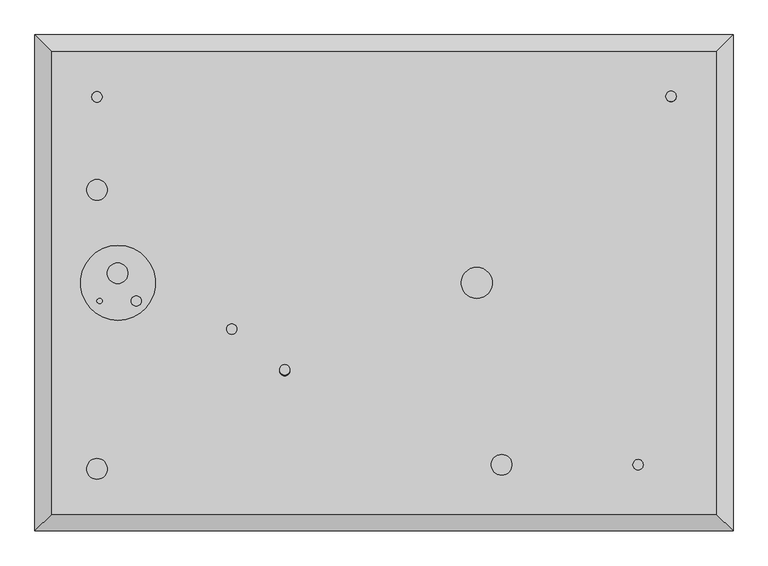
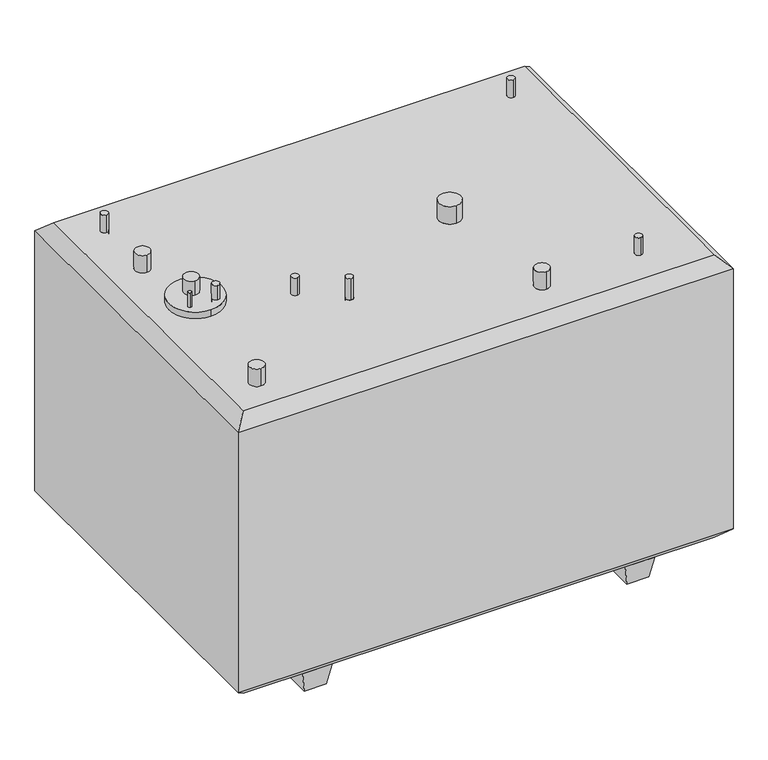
"""IFC4 building model written with IfcOpenShell, lengths in millimetres: proxy geometry, Convault Tank Family 88153116 : Convault Tank Family 88153116."""

from ifc_helpers import new_model, si_unit, point, frame, frame_2d, origin, place, context, project, spatial, polyline, circle_curve, trimmed, segment, composite_curve, outline, extrude, faceted_brep, source, transform, mapped, element, save
from ifc_brep_helpers import plane_surface, cylinder_surface, revolved_surface, advanced_brep


def generic_models_899ce9b8(model_context):
    return source(origin(), model_context, "Body", "SolidModel", [
        extrude(outline(composite_curve([segment(trimmed(circle_curve(frame_2d((-1306.5125, 0.0)), 184.15), [point((-1306.5125, 184.15))], [point((-1306.5125, -184.15))], False, "CARTESIAN"), True, "CONTINUOUS"), segment(trimmed(circle_curve(frame_2d((-1306.5125, 0.0)), 184.15), [point((-1306.5125, -184.15))], [point((-1306.5125, 184.15))], False, "CARTESIAN"), True, "CONTINUOUS")], self_intersect=False)), frame((0.0, 0.0, 2044.7), z_axis=(0.0, 0.0, 1.0), x_axis=(1.0, 0.0, 0.0)), (0.0, 0.0, 1.0), 224.7090569),
        advanced_brep(
        [(-487.3625, -452.4375, 2374.9), (-487.3625, -401.6375, 2374.9), (-512.6795956, -429.088029, 2044.7), (-487.3625, -401.6375, 2044.7), (-462.0454044, -429.088029, 2044.7), (-487.3625, -405.7385581, 2044.7), (-487.3625, -452.4375, 2222.5), (-462.0454044, -429.088029, 2222.5), (-512.6795956, -429.088029, 2222.5), (-487.3625, -405.7385581, 2222.5)],
        [
            (0, 1, circle_curve(frame((-487.3625, -427.0375, 2374.9), z_axis=(0.0, 0.0, 1.0), x_axis=(0.0, 1.0, 0.0)), 25.4)),
            (1, 0, circle_curve(frame((-487.3625, -427.0375, 2374.9), z_axis=(0.0, 0.0, 1.0), x_axis=(0.0, 1.0, 0.0)), 25.4)),
            (2, 3, circle_curve(frame((-487.3625, -427.0375, 2044.7), z_axis=(0.0, 0.0, -1.0), x_axis=(0.0, 1.0, 0.0)), 25.4)),
            (3, 4, circle_curve(frame((-487.3625, -427.0375, 2044.7), z_axis=(0.0, 0.0, -1.0), x_axis=(0.0, 1.0, 0.0)), 25.4)),
            (4, 5, circle_curve(frame((-487.3625, -431.1385581, 2044.7), z_axis=(0.0, 0.0, 1.0), x_axis=(0.0, -1.0, 0.0)), 25.4)),
            (5, 2, circle_curve(frame((-487.3625, -431.1385581, 2044.7), z_axis=(0.0, 0.0, 1.0), x_axis=(0.0, -1.0, 0.0)), 25.4)),
            (0, 6),
            (6, 7, circle_curve(frame((-487.3625, -427.0375, 2222.5), z_axis=(0.0, 0.0, 1.0), x_axis=(0.0, 1.0, 0.0)), 25.4)),
            (7, 4),
            (3, 1),
            (2, 8),
            (8, 6, circle_curve(frame((-487.3625, -427.0375, 2222.5), z_axis=(0.0, 0.0, 1.0), x_axis=(0.0, 1.0, 0.0)), 25.4)),
            (9, 7, circle_curve(frame((-487.3625, -431.1385581, 2222.5), z_axis=(0.0, 0.0, -1.0), x_axis=(0.0, -1.0, 0.0)), 25.4)),
            (8, 9, circle_curve(frame((-487.3625, -431.1385581, 2222.5), z_axis=(0.0, 0.0, -1.0), x_axis=(0.0, -1.0, 0.0)), 25.4)),
            (5, 9),
        ],
        [
            plane_surface(frame((-487.3625, -401.6375, 2374.9), z_axis=(0.0, 0.0, 1.0), x_axis=(-1.0, 0.0, 0.0))),
            plane_surface(frame((-487.3625, -401.6375, 2044.7), z_axis=(0.0, 0.0, -1.0), x_axis=(1.0, 0.0, 0.0))),
            cylinder_surface(frame((-487.3625, -427.0375, 2044.7), z_axis=(0.0, 0.0, 1.0), x_axis=(0.0, 1.0, 0.0)), 25.4),
            plane_surface(frame((-1409.7, 889.0, 2222.5), z_axis=(0.0, 0.0, -1.0), x_axis=(1.0, 0.0, 0.0))),
            revolved_surface(polyline([(-487.3625, -456.5385581, 2222.5), (-487.3625, -456.5385581, 2044.7)]), (-487.3625, -431.1385581, 2044.7), (0.0, 0.0, 1.0)),
        ],
        [
            (0, [[1, 2]]),
            (1, [[3, 4, 5, 6]]),
            (2, [[-1, 7, 8, 9, -4, 10]]),
            (2, [[-2, -10, -3, 11, 12, -7]]),
            (3, [[13, -8, -12, 14]]),
            (4, [[15, -14, -11, -6]]),
            (4, [[-15, -5, -9, -13]]),
        ],
    ),
        advanced_brep(
        [(-1409.7, 939.8, 2349.5), (-1409.7, 889.0, 2349.5), (-1409.7, 939.8, 2222.5), (-1409.7, 889.0, 2222.5)],
        [
            (0, 1, circle_curve(frame((-1409.7, 914.4, 2349.5), z_axis=(0.0, 0.0, 1.0), x_axis=(0.0, -1.0, 0.0)), 25.4)),
            (1, 0, circle_curve(frame((-1409.7, 914.4, 2349.5), z_axis=(0.0, 0.0, 1.0), x_axis=(0.0, -1.0, 0.0)), 25.4)),
            (0, 2),
            (2, 3, circle_curve(frame((-1409.7, 914.4, 2222.5), z_axis=(0.0, 0.0, 1.0), x_axis=(0.0, -1.0, 0.0)), 25.4)),
            (3, 1),
            (3, 2, circle_curve(frame((-1409.7, 914.4, 2222.5), z_axis=(0.0, 0.0, 1.0), x_axis=(0.0, -1.0, 0.0)), 25.4)),
        ],
        [
            plane_surface(frame((-1409.7, 889.0, 2349.5), z_axis=(0.0, 0.0, 1.0), x_axis=(1.0, 0.0, 0.0))),
            cylinder_surface(frame((-1409.7, 914.4, 2044.7), z_axis=(0.0, 0.0, 1.0), x_axis=(0.0, -1.0, 0.0)), 25.4),
            plane_surface(frame((-1409.7, 889.0, 2222.5), z_axis=(0.0, 0.0, -1.0), x_axis=(1.0, 0.0, 0.0))),
        ],
        [
            (0, [[1, 2]]),
            (1, [[-1, 3, 4, 5]]),
            (1, [[-2, -5, 6, -3]]),
            (2, [[-4, -6]]),
        ],
    ),
        advanced_brep(
        [(-1409.7, 508.0, 2349.5), (-1409.7, 406.4, 2349.5), (-1409.7, 508.0, 2222.5), (-1409.7, 406.4, 2222.5)],
        [
            (0, 1, circle_curve(frame((-1409.7, 457.2, 2349.5), z_axis=(0.0, 0.0, 1.0), x_axis=(0.0, -1.0, 0.0)), 50.8)),
            (1, 0, circle_curve(frame((-1409.7, 457.2, 2349.5), z_axis=(0.0, 0.0, 1.0), x_axis=(0.0, -1.0, 0.0)), 50.8)),
            (0, 2),
            (2, 3, circle_curve(frame((-1409.7, 457.2, 2222.5), z_axis=(0.0, 0.0, 1.0), x_axis=(0.0, -1.0, 0.0)), 50.8)),
            (3, 1),
            (3, 2, circle_curve(frame((-1409.7, 457.2, 2222.5), z_axis=(0.0, 0.0, 1.0), x_axis=(0.0, -1.0, 0.0)), 50.8)),
        ],
        [
            plane_surface(frame((-1409.7, 889.0, 2349.5), z_axis=(0.0, 0.0, 1.0), x_axis=(1.0, 0.0, 0.0))),
            cylinder_surface(frame((-1409.7, 457.2, 2044.7), z_axis=(0.0, 0.0, 1.0), x_axis=(0.0, -1.0, 0.0)), 50.8),
            plane_surface(frame((-1409.7, 889.0, 2222.5), z_axis=(0.0, 0.0, -1.0), x_axis=(1.0, 0.0, 0.0))),
        ],
        [
            (0, [[1, 2]]),
            (1, [[-1, 3, 4, 5]]),
            (1, [[-2, -5, 6, -3]]),
            (2, [[-4, -6]]),
        ],
    ),
        advanced_brep(
        [(-1409.7, -863.6, 2349.5), (-1409.7, -965.2, 2349.5), (-1409.7, -863.6, 2222.5), (-1409.7, -965.2, 2222.5)],
        [
            (0, 1, circle_curve(frame((-1409.7, -914.4, 2349.5), z_axis=(0.0, 0.0, 1.0), x_axis=(0.0, -1.0, 0.0)), 50.8)),
            (1, 0, circle_curve(frame((-1409.7, -914.4, 2349.5), z_axis=(0.0, 0.0, 1.0), x_axis=(0.0, -1.0, 0.0)), 50.8)),
            (0, 2),
            (2, 3, circle_curve(frame((-1409.7, -914.4, 2222.5), z_axis=(0.0, 0.0, 1.0), x_axis=(0.0, -1.0, 0.0)), 50.8)),
            (3, 1),
            (3, 2, circle_curve(frame((-1409.7, -914.4, 2222.5), z_axis=(0.0, 0.0, 1.0), x_axis=(0.0, -1.0, 0.0)), 50.8)),
        ],
        [
            plane_surface(frame((-1409.7, 889.0, 2349.5), z_axis=(0.0, 0.0, 1.0), x_axis=(1.0, 0.0, 0.0))),
            cylinder_surface(frame((-1409.7, -914.4, 2044.7), z_axis=(0.0, 0.0, 1.0), x_axis=(0.0, -1.0, 0.0)), 50.8),
            plane_surface(frame((-1409.7, 889.0, 2222.5), z_axis=(0.0, 0.0, -1.0), x_axis=(1.0, 0.0, 0.0))),
        ],
        [
            (0, [[1, 2]]),
            (1, [[-1, 3, 4, 5]]),
            (1, [[-2, -5, 6, -3]]),
            (2, [[-4, -6]]),
        ],
    ),
        advanced_brep(
        [(-747.7125, -201.6125, 2349.5), (-747.7125, -252.4125, 2349.5), (-747.7125, -201.6125, 2222.5), (-747.7125, -252.4125, 2222.5)],
        [
            (0, 1, circle_curve(frame((-747.7125, -227.0125, 2349.5), z_axis=(0.0, 0.0, 1.0), x_axis=(0.0, -1.0, 0.0)), 25.4)),
            (1, 0, circle_curve(frame((-747.7125, -227.0125, 2349.5), z_axis=(0.0, 0.0, 1.0), x_axis=(0.0, -1.0, 0.0)), 25.4)),
            (0, 2),
            (2, 3, circle_curve(frame((-747.7125, -227.0125, 2222.5), z_axis=(0.0, 0.0, 1.0), x_axis=(0.0, -1.0, 0.0)), 25.4)),
            (3, 1),
            (3, 2, circle_curve(frame((-747.7125, -227.0125, 2222.5), z_axis=(0.0, 0.0, 1.0), x_axis=(0.0, -1.0, 0.0)), 25.4)),
        ],
        [
            plane_surface(frame((-1409.7, 889.0, 2349.5), z_axis=(0.0, 0.0, 1.0), x_axis=(1.0, 0.0, 0.0))),
            cylinder_surface(frame((-747.7125, -227.0125, 2044.7), z_axis=(0.0, 0.0, 1.0), x_axis=(0.0, -1.0, 0.0)), 25.4),
            plane_surface(frame((-1409.7, 889.0, 2222.5), z_axis=(0.0, 0.0, -1.0), x_axis=(1.0, 0.0, 0.0))),
        ],
        [
            (0, [[1, 2]]),
            (1, [[-1, 3, 4, 5]]),
            (1, [[-2, -5, 6, -3]]),
            (2, [[-4, -6]]),
        ],
    ),
        advanced_brep(
        [(455.6125, 76.2, 2349.5), (455.6125, -76.2, 2349.5), (455.6125, 76.2, 2222.5), (455.6125, -76.2, 2222.5)],
        [
            (0, 1, circle_curve(frame((455.6125, 0.0, 2349.5), z_axis=(0.0, 0.0, 1.0), x_axis=(0.0, -1.0, 0.0)), 76.2)),
            (1, 0, circle_curve(frame((455.6125, 0.0, 2349.5), z_axis=(0.0, 0.0, 1.0), x_axis=(0.0, -1.0, 0.0)), 76.2)),
            (0, 2),
            (2, 3, circle_curve(frame((455.6125, 0.0, 2222.5), z_axis=(0.0, 0.0, 1.0), x_axis=(0.0, -1.0, 0.0)), 76.2)),
            (3, 1),
            (3, 2, circle_curve(frame((455.6125, 0.0, 2222.5), z_axis=(0.0, 0.0, 1.0), x_axis=(0.0, -1.0, 0.0)), 76.2)),
        ],
        [
            plane_surface(frame((-1409.7, 889.0, 2349.5), z_axis=(0.0, 0.0, 1.0), x_axis=(1.0, 0.0, 0.0))),
            cylinder_surface(frame((455.6125, 0.0, 2044.7), z_axis=(0.0, 0.0, 1.0), x_axis=(0.0, -1.0, 0.0)), 76.2),
            plane_surface(frame((-1409.7, 889.0, 2222.5), z_axis=(0.0, 0.0, -1.0), x_axis=(1.0, 0.0, 0.0))),
        ],
        [
            (0, [[1, 2]]),
            (1, [[-1, 3, 4, 5]]),
            (1, [[-2, -5, 6, -3]]),
            (2, [[-4, -6]]),
        ],
    ),
        advanced_brep(
        [(1247.775, -868.3625, 2349.5), (1247.775, -919.1625, 2349.5), (1247.775, -868.3625, 2222.5), (1247.775, -919.1625, 2222.5)],
        [
            (0, 1, circle_curve(frame((1247.775, -893.7625, 2349.5), z_axis=(0.0, 0.0, 1.0), x_axis=(0.0, -1.0, 0.0)), 25.4)),
            (1, 0, circle_curve(frame((1247.775, -893.7625, 2349.5), z_axis=(0.0, 0.0, 1.0), x_axis=(0.0, -1.0, 0.0)), 25.4)),
            (0, 2),
            (2, 3, circle_curve(frame((1247.775, -893.7625, 2222.5), z_axis=(0.0, 0.0, 1.0), x_axis=(0.0, -1.0, 0.0)), 25.4)),
            (3, 1),
            (3, 2, circle_curve(frame((1247.775, -893.7625, 2222.5), z_axis=(0.0, 0.0, 1.0), x_axis=(0.0, -1.0, 0.0)), 25.4)),
        ],
        [
            plane_surface(frame((-1409.7, 889.0, 2349.5), z_axis=(0.0, 0.0, 1.0), x_axis=(1.0, 0.0, 0.0))),
            cylinder_surface(frame((1247.775, -893.7625, 2044.7), z_axis=(0.0, 0.0, 1.0), x_axis=(0.0, -1.0, 0.0)), 25.4),
            plane_surface(frame((-1409.7, 889.0, 2222.5), z_axis=(0.0, 0.0, -1.0), x_axis=(1.0, 0.0, 0.0))),
        ],
        [
            (0, [[1, 2]]),
            (1, [[-1, 3, 4, 5]]),
            (1, [[-2, -5, 6, -3]]),
            (2, [[-4, -6]]),
        ],
    ),
        advanced_brep(
        [(577.85, -842.9625, 2349.5), (577.85, -944.5625, 2349.5), (577.85, -842.9625, 2222.5), (577.85, -944.5625, 2222.5)],
        [
            (0, 1, circle_curve(frame((577.85, -893.7625, 2349.5), z_axis=(0.0, 0.0, 1.0), x_axis=(0.0, -1.0, 0.0)), 50.8)),
            (1, 0, circle_curve(frame((577.85, -893.7625, 2349.5), z_axis=(0.0, 0.0, 1.0), x_axis=(0.0, -1.0, 0.0)), 50.8)),
            (0, 2),
            (2, 3, circle_curve(frame((577.85, -893.7625, 2222.5), z_axis=(0.0, 0.0, 1.0), x_axis=(0.0, -1.0, 0.0)), 50.8)),
            (3, 1),
            (3, 2, circle_curve(frame((577.85, -893.7625, 2222.5), z_axis=(0.0, 0.0, 1.0), x_axis=(0.0, -1.0, 0.0)), 50.8)),
        ],
        [
            plane_surface(frame((-1409.7, 889.0, 2349.5), z_axis=(0.0, 0.0, 1.0), x_axis=(1.0, 0.0, 0.0))),
            cylinder_surface(frame((577.85, -893.7625, 2044.7), z_axis=(0.0, 0.0, 1.0), x_axis=(0.0, -1.0, 0.0)), 50.8),
            plane_surface(frame((-1409.7, 889.0, 2222.5), z_axis=(0.0, 0.0, -1.0), x_axis=(1.0, 0.0, 0.0))),
        ],
        [
            (0, [[1, 2]]),
            (1, [[-1, 3, 4, 5]]),
            (1, [[-2, -5, 6, -3]]),
            (2, [[-4, -6]]),
        ],
    ),
        advanced_brep(
        [(1409.7, 942.4209307, 2349.5), (1409.7, 891.6209307, 2349.5), (1409.7, 942.4209307, 2044.7), (1435.0976351, 916.674328, 2044.7), (1409.7, 941.7277254, 2044.7), (1384.3023649, 916.674328, 2044.7), (1409.7, 941.7277254, 2222.5), (1435.0976351, 916.674328, 2222.5), (1409.7, 891.6209307, 2222.5), (1384.3023649, 916.674328, 2222.5)],
        [
            (0, 1, circle_curve(frame((1409.7, 917.0209307, 2349.5), z_axis=(0.0, 0.0, 1.0), x_axis=(0.0, -1.0, 0.0)), 25.4)),
            (1, 0, circle_curve(frame((1409.7, 917.0209307, 2349.5), z_axis=(0.0, 0.0, 1.0), x_axis=(0.0, -1.0, 0.0)), 25.4)),
            (2, 3, circle_curve(frame((1409.7, 917.0209307, 2044.7), z_axis=(0.0, 0.0, -1.0), x_axis=(0.0, -1.0, 0.0)), 25.4)),
            (3, 4, circle_curve(frame((1409.7, 916.3277254, 2044.7), z_axis=(0.0, 0.0, 1.0), x_axis=(0.0, -1.0, 0.0)), 25.4)),
            (4, 5, circle_curve(frame((1409.7, 916.3277254, 2044.7), z_axis=(0.0, 0.0, 1.0), x_axis=(0.0, -1.0, 0.0)), 25.4)),
            (5, 2, circle_curve(frame((1409.7, 917.0209307, 2044.7), z_axis=(0.0, 0.0, -1.0), x_axis=(0.0, -1.0, 0.0)), 25.4)),
            (6, 7, circle_curve(frame((1409.7, 916.3277254, 2222.5), z_axis=(0.0, 0.0, -1.0), x_axis=(0.0, -1.0, 0.0)), 25.4)),
            (7, 8, circle_curve(frame((1409.7, 917.0209307, 2222.5), z_axis=(0.0, 0.0, -1.0), x_axis=(0.0, -1.0, 0.0)), 25.4)),
            (8, 9, circle_curve(frame((1409.7, 917.0209307, 2222.5), z_axis=(0.0, 0.0, -1.0), x_axis=(0.0, -1.0, 0.0)), 25.4)),
            (9, 6, circle_curve(frame((1409.7, 916.3277254, 2222.5), z_axis=(0.0, 0.0, -1.0), x_axis=(0.0, -1.0, 0.0)), 25.4)),
            (0, 2),
            (5, 9),
            (8, 1),
            (7, 3),
            (4, 6),
        ],
        [
            plane_surface(frame((-1409.7, 889.0, 2349.5), z_axis=(0.0, 0.0, 1.0), x_axis=(1.0, 0.0, 0.0))),
            plane_surface(frame((-1409.7, 889.0, 2044.7), z_axis=(0.0, 0.0, -1.0), x_axis=(-1.0, 0.0, 0.0))),
            plane_surface(frame((-1409.7, 889.0, 2222.5), z_axis=(0.0, 0.0, -1.0), x_axis=(1.0, 0.0, 0.0))),
            cylinder_surface(frame((1409.7, 917.0209307, 2044.7), z_axis=(0.0, 0.0, 1.0), x_axis=(0.0, -1.0, 0.0)), 25.4),
            revolved_surface(polyline([(1409.7, 890.9277254, 2222.5), (1409.7, 890.9277254, 2044.7)]), (1409.7, 916.3277254, 2044.7), (0.0, 0.0, 1.0)),
        ],
        [
            (0, [[1, 2]]),
            (1, [[3, 4, 5, 6]]),
            (2, [[7, 8, 9, 10]]),
            (3, [[-1, 11, -6, 12, -9, 13]]),
            (3, [[-2, -13, -8, 14, -3, -11]]),
            (4, [[15, -10, -12, -5]]),
            (4, [[-15, -4, -14, -7]]),
        ],
    ),
        extrude(outline(polyline([(1562.1, 1066.8), (1562.1, -1066.8), (-1562.1, -1066.8), (-1562.1, 1066.8), (1562.1, 1066.8)]), holes=[composite_curve([segment(trimmed(circle_curve(frame_2d((-1409.7, 914.4)), 25.4), [point((-1409.7, 939.8))], [point((-1409.7, 889.0))], True, "CARTESIAN"), True, "CONTINUOUS"), segment(trimmed(circle_curve(frame_2d((-1409.7, 914.4)), 25.4), [point((-1409.7, 889.0))], [point((-1409.7, 939.8))], True, "CARTESIAN"), True, "CONTINUOUS")], self_intersect=False), composite_curve([segment(trimmed(circle_curve(frame_2d((-1409.7, 457.2)), 50.8), [point((-1409.7, 508.0))], [point((-1409.7, 406.4))], True, "CARTESIAN"), True, "CONTINUOUS"), segment(trimmed(circle_curve(frame_2d((-1409.7, 457.2)), 50.8), [point((-1409.7, 406.4))], [point((-1409.7, 508.0))], True, "CARTESIAN"), True, "CONTINUOUS")], self_intersect=False), composite_curve([segment(trimmed(circle_curve(frame_2d((-1409.7, -914.4)), 50.8), [point((-1409.7, -863.6))], [point((-1409.7, -965.2))], True, "CARTESIAN"), True, "CONTINUOUS"), segment(trimmed(circle_curve(frame_2d((-1409.7, -914.4)), 50.8), [point((-1409.7, -965.2))], [point((-1409.7, -863.6))], True, "CARTESIAN"), True, "CONTINUOUS")], self_intersect=False), composite_curve([segment(trimmed(circle_curve(frame_2d((-747.7125, -227.0125)), 25.4), [point((-747.7125, -201.6125))], [point((-747.7125, -252.4125))], True, "CARTESIAN"), True, "CONTINUOUS"), segment(trimmed(circle_curve(frame_2d((-747.7125, -227.0125)), 25.4), [point((-747.7125, -252.4125))], [point((-747.7125, -201.6125))], True, "CARTESIAN"), True, "CONTINUOUS")], self_intersect=False), composite_curve([segment(trimmed(circle_curve(frame_2d((455.6125, 0.0)), 76.2), [point((455.6125, 76.2))], [point((455.6125, -76.2))], True, "CARTESIAN"), True, "CONTINUOUS"), segment(trimmed(circle_curve(frame_2d((455.6125, 0.0)), 76.2), [point((455.6125, -76.2))], [point((455.6125, 76.2))], True, "CARTESIAN"), True, "CONTINUOUS")], self_intersect=False), composite_curve([segment(trimmed(circle_curve(frame_2d((1247.775, -893.7625)), 25.4), [point((1247.775, -868.3625))], [point((1247.775, -919.1625))], True, "CARTESIAN"), True, "CONTINUOUS"), segment(trimmed(circle_curve(frame_2d((1247.775, -893.7625)), 25.4), [point((1247.775, -919.1625))], [point((1247.775, -868.3625))], True, "CARTESIAN"), True, "CONTINUOUS")], self_intersect=False), composite_curve([segment(trimmed(circle_curve(frame_2d((577.85, -893.7625)), 50.8), [point((577.85, -842.9625))], [point((577.85, -944.5625))], True, "CARTESIAN"), True, "CONTINUOUS"), segment(trimmed(circle_curve(frame_2d((577.85, -893.7625)), 50.8), [point((577.85, -944.5625))], [point((577.85, -842.9625))], True, "CARTESIAN"), True, "CONTINUOUS")], self_intersect=False), composite_curve([segment(trimmed(circle_curve(frame_2d((-487.3625, -431.1385581)), 25.4), [point((-487.3625, -405.7385581))], [point((-487.3625, -456.5385581))], True, "CARTESIAN"), True, "CONTINUOUS"), segment(trimmed(circle_curve(frame_2d((-487.3625, -431.1385581)), 25.4), [point((-487.3625, -456.5385581))], [point((-487.3625, -405.7385581))], True, "CARTESIAN"), True, "CONTINUOUS")], self_intersect=False), composite_curve([segment(trimmed(circle_curve(frame_2d((1409.7, 916.3277254)), 25.4), [point((1409.7, 941.7277254))], [point((1409.7, 890.9277254))], True, "CARTESIAN"), True, "CONTINUOUS"), segment(trimmed(circle_curve(frame_2d((1409.7, 916.3277254)), 25.4), [point((1409.7, 890.9277254))], [point((1409.7, 941.7277254))], True, "CARTESIAN"), True, "CONTINUOUS")], self_intersect=False), composite_curve([segment(trimmed(circle_curve(frame_2d((-1308.1, 0.0)), 6.35), [point((-1308.1, 6.35))], [point((-1308.1, -6.35))], True, "CARTESIAN"), True, "CONTINUOUS"), segment(trimmed(circle_curve(frame_2d((-1308.1, 0.0)), 6.35), [point((-1308.1, -6.35))], [point((-1308.1, 6.35))], True, "CARTESIAN"), True, "CONTINUOUS")], self_intersect=False)]), frame((0.0, 0.0, 2044.7), z_axis=(0.0, 0.0, 1.0), x_axis=(1.0, 0.0, 0.0)), (0.0, 0.0, 1.0), 25.4),
        extrude(outline(composite_curve([segment(trimmed(circle_curve(frame_2d((-1308.1, 47.625)), 50.8), [point((-1308.1, 98.425))], [point((-1308.1, -3.175))], False, "CARTESIAN"), True, "CONTINUOUS"), segment(trimmed(circle_curve(frame_2d((-1308.1, 47.625)), 50.8), [point((-1308.1, -3.175))], [point((-1308.1, 98.425))], False, "CARTESIAN"), True, "CONTINUOUS")], self_intersect=False)), frame((0.0, 0.0, 2044.7), z_axis=(0.0, 0.0, 1.0), x_axis=(1.0, 0.0, 0.0)), (0.0, 0.0, 1.0), 330.2),
        extrude(outline(composite_curve([segment(trimmed(circle_curve(frame_2d((-1217.1925835, -88.9)), 25.4), [point((-1217.1925835, -63.5))], [point((-1217.1925835, -114.3))], False, "CARTESIAN"), True, "CONTINUOUS"), segment(trimmed(circle_curve(frame_2d((-1217.1925835, -88.9)), 25.4), [point((-1217.1925835, -114.3))], [point((-1217.1925835, -63.5))], False, "CARTESIAN"), True, "CONTINUOUS")], self_intersect=False)), frame((0.0, 0.0, 2044.7), z_axis=(0.0, 0.0, 1.0), x_axis=(1.0, 0.0, 0.0)), (0.0, 0.0, 1.0), 330.2),
        extrude(outline(composite_curve([segment(trimmed(circle_curve(frame_2d((-1397.0, -88.9)), 12.7), [point((-1397.0, -76.2))], [point((-1397.0, -101.6))], False, "CARTESIAN"), True, "CONTINUOUS"), segment(trimmed(circle_curve(frame_2d((-1397.0, -88.9)), 12.7), [point((-1397.0, -101.6))], [point((-1397.0, -76.2))], False, "CARTESIAN"), True, "CONTINUOUS")], self_intersect=False)), frame((0.0, 0.0, 2044.7), z_axis=(0.0, 0.0, 1.0), x_axis=(1.0, 0.0, 0.0)), (0.0, 0.0, 1.0), 330.2),
        extrude(outline(polyline([(1536.7, -1066.8), (1536.7, 1066.8), (1562.1, 1066.8), (1562.1, -1066.8), (1536.7, -1066.8)])), frame((0.0, 0.0, 304.8), z_axis=(0.0, 0.0, 1.0), x_axis=(1.0, 0.0, 0.0)), (0.0, 0.0, 1.0), 1765.3),
        extrude(outline(polyline([(-1562.1, -1066.8), (-1562.1, 1066.8), (-1536.7, 1066.8), (-1536.7, -1066.8), (-1562.1, -1066.8)])), frame((0.0, 0.0, 304.8), z_axis=(0.0, 0.0, 1.0), x_axis=(1.0, 0.0, 0.0)), (0.0, 0.0, 1.0), 1765.3),
        extrude(outline(polyline([(-1562.1, 1066.8), (1562.1, 1066.8), (1562.1, 1041.4), (-1562.1, 1041.4), (-1562.1, 1066.8)])), frame((0.0, 0.0, 304.8), z_axis=(0.0, 0.0, 1.0), x_axis=(1.0, 0.0, 0.0)), (0.0, 0.0, 1.0), 1765.3),
        extrude(outline(polyline([(1562.1, 1066.8), (1562.1, -1066.8), (-1562.1, -1066.8), (-1562.1, 1066.8), (1562.1, 1066.8)])), frame((0.0, 0.0, 304.8), z_axis=(0.0, 0.0, 1.0), x_axis=(1.0, 0.0, 0.0)), (0.0, 0.0, 1.0), 25.4),
        extrude(outline(polyline([(-1562.1, -1041.4), (1562.1, -1041.4), (1562.1, -1066.8), (-1562.1, -1066.8), (-1562.1, -1041.4)])), frame((0.0, 0.0, 304.8), z_axis=(0.0, 0.0, 1.0), x_axis=(1.0, 0.0, 0.0)), (0.0, 0.0, 1.0), 1765.3),
        faceted_brep([(1041.0396983, -1109.7777681, 0.0), (1193.4396983, -1109.7777681, 0.0), (1219.2, -1136.65, 152.4), (1016.0, -1136.65, 152.4), (1193.4396983, 1109.7777681, 0.0), (1041.0396983, 1109.7777681, 0.0), (1016.0, 1136.65, 152.4), (1219.2, 1136.65, 152.4)], [[[0, 1, 2, 3]], [[4, 5, 6, 7]], [[4, 1, 0, 5]], [[5, 0, 3, 6]], [[6, 3, 2, 7]], [[1, 4, 7, 2]]]),
        faceted_brep([(-1219.5603017, -1136.65, 152.4), (-1193.8, -1109.7777681, 0.0), (-1041.4, -1109.7777681, 0.0), (-1015.6396983, -1136.65, 152.4), (-1193.8, 1109.7777681, 0.0), (-1219.5603017, 1136.65, 152.4), (-1015.6396983, 1136.65, 152.4), (-1041.4, 1109.7777681, 0.0)], [[[0, 1, 2, 3]], [[4, 5, 6, 7]], [[4, 1, 0, 5]], [[5, 0, 3, 6]], [[6, 3, 2, 7]], [[1, 4, 7, 2]]]),
        advanced_brep(
        [(-1631.95, 1136.65, 2222.5), (-1631.95, -1136.65, 2222.5), (1631.95, -1136.65, 2222.5), (1631.95, 1136.65, 2222.5), (-1409.7, 889.0, 2222.5), (-1409.7, 939.8, 2222.5), (-1409.7, 406.4, 2222.5), (-1409.7, 508.0, 2222.5), (-1409.7, -965.2, 2222.5), (-1409.7, -863.6, 2222.5), (-747.7125, -252.4125, 2222.5), (-747.7125, -201.6125, 2222.5), (455.6125, -76.2, 2222.5), (455.6125, 76.2, 2222.5), (1247.775, -919.1625, 2222.5), (1247.775, -868.3625, 2222.5), (577.85, -944.5625, 2222.5), (577.85, -842.9625, 2222.5), (-487.3625, -456.5385581, 2222.5), (-487.3625, -405.7385581, 2222.5), (1409.7, 890.9277254, 2222.5), (1409.7, 941.7277254, 2222.5), (-1308.1, -6.35, 2222.5), (-1308.1, 6.35, 2222.5), (-1631.95, -1136.65, 152.4), (-1631.95, 1136.65, 152.4), (1631.95, 1136.65, 152.4), (1631.95, -1136.65, 152.4), (1714.5, 1219.2, 2139.95), (1714.5, 1219.2, 234.95), (-1714.5, 1219.2, 234.95), (-1714.5, 1219.2, 2139.95), (-1714.5, -1219.2, 234.95), (-1714.5, -1219.2, 2139.95), (1714.5, -1219.2, 234.95), (1714.5, -1219.2, 2139.95), (-1460.5, -1066.8, 2070.1), (-1460.5, -1066.8, 304.8), (-1460.5, 1066.8, 304.8), (-1460.5, 1066.8, 2070.1), (-1460.5, 457.2, 2070.1), (-1460.5, -914.4, 2070.1), (1562.1, -1066.8, 2070.1), (1562.1, 1066.8, 2070.1), (1562.1, 1066.8, 304.8), (1562.1, -1066.8, 304.8), (-1409.7, -965.2, 2070.1), (-1409.7, -863.6, 2070.1), (-1409.7, 406.4, 2070.1), (-1409.7, 508.0, 2070.1), (-1409.7, 939.8, 2070.1), (-1409.7, 889.0, 2070.1), (-747.7125, -201.6125, 2070.1), (-747.7125, -252.4125, 2070.1), (455.6125, 76.2, 2070.1), (455.6125, -76.2, 2070.1), (1247.775, -868.3625, 2070.1), (1247.775, -919.1625, 2070.1), (577.85, -842.9625, 2070.1), (577.85, -944.5625, 2070.1), (-487.3625, -405.7385581, 2070.1), (-487.3625, -456.5385581, 2070.1), (1409.7, 941.7277254, 2070.1), (1409.7, 890.9277254, 2070.1), (-1308.1, 6.35, 2070.1), (-1308.1, -6.35, 2070.1)],
        [
            (0, 1),
            (1, 2),
            (2, 3),
            (3, 0),
            (4, 5, circle_curve(frame((-1409.7, 914.4, 2222.5), z_axis=(0.0, 0.0, -1.0), x_axis=(0.0, -1.0, 0.0)), 25.4)),
            (5, 4, circle_curve(frame((-1409.7, 914.4, 2222.5), z_axis=(0.0, 0.0, -1.0), x_axis=(0.0, -1.0, 0.0)), 25.4)),
            (6, 7, circle_curve(frame((-1409.7, 457.2, 2222.5), z_axis=(0.0, 0.0, -1.0), x_axis=(0.0, -1.0, 0.0)), 50.8)),
            (7, 6, circle_curve(frame((-1409.7, 457.2, 2222.5), z_axis=(0.0, 0.0, -1.0), x_axis=(0.0, -1.0, 0.0)), 50.8)),
            (8, 9, circle_curve(frame((-1409.7, -914.4, 2222.5), z_axis=(0.0, 0.0, -1.0), x_axis=(0.0, -1.0, 0.0)), 50.8)),
            (9, 8, circle_curve(frame((-1409.7, -914.4, 2222.5), z_axis=(0.0, 0.0, -1.0), x_axis=(0.0, -1.0, 0.0)), 50.8)),
            (10, 11, circle_curve(frame((-747.7125, -227.0125, 2222.5), z_axis=(0.0, 0.0, -1.0), x_axis=(0.0, -1.0, 0.0)), 25.4)),
            (11, 10, circle_curve(frame((-747.7125, -227.0125, 2222.5), z_axis=(0.0, 0.0, -1.0), x_axis=(0.0, -1.0, 0.0)), 25.4)),
            (12, 13, circle_curve(frame((455.6125, 0.0, 2222.5), z_axis=(0.0, 0.0, -1.0), x_axis=(0.0, -1.0, 0.0)), 76.2)),
            (13, 12, circle_curve(frame((455.6125, 0.0, 2222.5), z_axis=(0.0, 0.0, -1.0), x_axis=(0.0, -1.0, 0.0)), 76.2)),
            (14, 15, circle_curve(frame((1247.775, -893.7625, 2222.5), z_axis=(0.0, 0.0, -1.0), x_axis=(0.0, -1.0, 0.0)), 25.4)),
            (15, 14, circle_curve(frame((1247.775, -893.7625, 2222.5), z_axis=(0.0, 0.0, -1.0), x_axis=(0.0, -1.0, 0.0)), 25.4)),
            (16, 17, circle_curve(frame((577.85, -893.7625, 2222.5), z_axis=(0.0, 0.0, -1.0), x_axis=(0.0, -1.0, 0.0)), 50.8)),
            (17, 16, circle_curve(frame((577.85, -893.7625, 2222.5), z_axis=(0.0, 0.0, -1.0), x_axis=(0.0, -1.0, 0.0)), 50.8)),
            (18, 19, circle_curve(frame((-487.3625, -431.1385581, 2222.5), z_axis=(0.0, 0.0, -1.0), x_axis=(0.0, -1.0, 0.0)), 25.4)),
            (19, 18, circle_curve(frame((-487.3625, -431.1385581, 2222.5), z_axis=(0.0, 0.0, -1.0), x_axis=(0.0, -1.0, 0.0)), 25.4)),
            (20, 21, circle_curve(frame((1409.7, 916.3277254, 2222.5), z_axis=(0.0, 0.0, -1.0), x_axis=(0.0, -1.0, 0.0)), 25.4)),
            (21, 20, circle_curve(frame((1409.7, 916.3277254, 2222.5), z_axis=(0.0, 0.0, -1.0), x_axis=(0.0, -1.0, 0.0)), 25.4)),
            (22, 23, circle_curve(frame((-1308.1, 0.0, 2222.5), z_axis=(0.0, 0.0, -1.0), x_axis=(0.0, -1.0, 0.0)), 6.35)),
            (23, 22, circle_curve(frame((-1308.1, 0.0, 2222.5), z_axis=(0.0, 0.0, -1.0), x_axis=(0.0, -1.0, 0.0)), 6.35)),
            (24, 25),
            (25, 26),
            (26, 27),
            (27, 24),
            (28, 29),
            (29, 30),
            (30, 31),
            (31, 28),
            (30, 32),
            (32, 33),
            (33, 31),
            (32, 34),
            (34, 35),
            (35, 33),
            (28, 35),
            (34, 29),
            (28, 3),
            (2, 35),
            (34, 27),
            (26, 29),
            (30, 25),
            (24, 32),
            (33, 1),
            (0, 31),
            (36, 37),
            (37, 38),
            (38, 39),
            (39, 40),
            (40, 41),
            (41, 36),
            (42, 43),
            (43, 44),
            (44, 45),
            (45, 42),
            (42, 36),
            (41, 46, circle_curve(frame((-1409.7, -914.4, 2070.1), z_axis=(0.0, 0.0, 1.0), x_axis=(0.0, -1.0, 0.0)), 50.8)),
            (46, 47, circle_curve(frame((-1409.7, -914.4, 2070.1), z_axis=(0.0, 0.0, 1.0), x_axis=(0.0, -1.0, 0.0)), 50.8)),
            (47, 41, circle_curve(frame((-1409.7, -914.4, 2070.1), z_axis=(0.0, 0.0, 1.0), x_axis=(0.0, -1.0, 0.0)), 50.8)),
            (40, 48, circle_curve(frame((-1409.7, 457.2, 2070.1), z_axis=(0.0, 0.0, 1.0), x_axis=(0.0, -1.0, 0.0)), 50.8)),
            (48, 49, circle_curve(frame((-1409.7, 457.2, 2070.1), z_axis=(0.0, 0.0, 1.0), x_axis=(0.0, -1.0, 0.0)), 50.8)),
            (49, 40, circle_curve(frame((-1409.7, 457.2, 2070.1), z_axis=(0.0, 0.0, 1.0), x_axis=(0.0, -1.0, 0.0)), 50.8)),
            (39, 43),
            (50, 51, circle_curve(frame((-1409.7, 914.4, 2070.1), z_axis=(0.0, 0.0, 1.0), x_axis=(0.0, -1.0, 0.0)), 25.4)),
            (51, 50, circle_curve(frame((-1409.7, 914.4, 2070.1), z_axis=(0.0, 0.0, 1.0), x_axis=(0.0, -1.0, 0.0)), 25.4)),
            (52, 53, circle_curve(frame((-747.7125, -227.0125, 2070.1), z_axis=(0.0, 0.0, 1.0), x_axis=(0.0, -1.0, 0.0)), 25.4)),
            (53, 52, circle_curve(frame((-747.7125, -227.0125, 2070.1), z_axis=(0.0, 0.0, 1.0), x_axis=(0.0, -1.0, 0.0)), 25.4)),
            (54, 55, circle_curve(frame((455.6125, 0.0, 2070.1), z_axis=(0.0, 0.0, 1.0), x_axis=(0.0, -1.0, 0.0)), 76.2)),
            (55, 54, circle_curve(frame((455.6125, 0.0, 2070.1), z_axis=(0.0, 0.0, 1.0), x_axis=(0.0, -1.0, 0.0)), 76.2)),
            (56, 57, circle_curve(frame((1247.775, -893.7625, 2070.1), z_axis=(0.0, 0.0, 1.0), x_axis=(0.0, -1.0, 0.0)), 25.4)),
            (57, 56, circle_curve(frame((1247.775, -893.7625, 2070.1), z_axis=(0.0, 0.0, 1.0), x_axis=(0.0, -1.0, 0.0)), 25.4)),
            (58, 59, circle_curve(frame((577.85, -893.7625, 2070.1), z_axis=(0.0, 0.0, 1.0), x_axis=(0.0, -1.0, 0.0)), 50.8)),
            (59, 58, circle_curve(frame((577.85, -893.7625, 2070.1), z_axis=(0.0, 0.0, 1.0), x_axis=(0.0, -1.0, 0.0)), 50.8)),
            (60, 61, circle_curve(frame((-487.3625, -431.1385581, 2070.1), z_axis=(0.0, 0.0, 1.0), x_axis=(0.0, -1.0, 0.0)), 25.4)),
            (61, 60, circle_curve(frame((-487.3625, -431.1385581, 2070.1), z_axis=(0.0, 0.0, 1.0), x_axis=(0.0, -1.0, 0.0)), 25.4)),
            (62, 63, circle_curve(frame((1409.7, 916.3277254, 2070.1), z_axis=(0.0, 0.0, 1.0), x_axis=(0.0, -1.0, 0.0)), 25.4)),
            (63, 62, circle_curve(frame((1409.7, 916.3277254, 2070.1), z_axis=(0.0, 0.0, 1.0), x_axis=(0.0, -1.0, 0.0)), 25.4)),
            (64, 65, circle_curve(frame((-1308.1, 0.0, 2070.1), z_axis=(0.0, 0.0, 1.0), x_axis=(0.0, -1.0, 0.0)), 6.35)),
            (65, 64, circle_curve(frame((-1308.1, 0.0, 2070.1), z_axis=(0.0, 0.0, 1.0), x_axis=(0.0, -1.0, 0.0)), 6.35)),
            (38, 44),
            (37, 45),
            (50, 5),
            (4, 51),
            (49, 7),
            (6, 48),
            (47, 9),
            (8, 46),
            (52, 11),
            (10, 53),
            (54, 13),
            (12, 55),
            (56, 15),
            (14, 57),
            (58, 17),
            (16, 59),
            (60, 19),
            (18, 61),
            (62, 21),
            (20, 63),
            (64, 23),
            (22, 65),
        ],
        [
            plane_surface(frame((-1714.5, 1219.2, 2222.5), z_axis=(0.0, 0.0, 1.0), x_axis=(-1.0, 0.0, 0.0))),
            plane_surface(frame((-1714.5, 1219.2, 152.4), z_axis=(0.0, 0.0, -1.0), x_axis=(1.0, 0.0, 0.0))),
            plane_surface(frame((1714.5, 1219.2, 2222.5), z_axis=(0.0, 1.0, 0.0), x_axis=(0.0, 0.0, -1.0))),
            plane_surface(frame((-1714.5, 1219.2, 2222.5), z_axis=(-1.0, 0.0, 0.0), x_axis=(0.0, 0.0, -1.0))),
            plane_surface(frame((-1714.5, -1219.2, 2222.5), z_axis=(0.0, -1.0, 0.0), x_axis=(0.0, 0.0, -1.0))),
            plane_surface(frame((1714.5, -1219.2, 2222.5), z_axis=(1.0, 0.0, 0.0), x_axis=(0.0, 0.0, -1.0))),
            plane_surface(frame((1714.5, 1219.2, 2139.95), z_axis=(0.7071067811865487, 0.0, 0.7071067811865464), x_axis=(0.0, -1.0, 0.0))),
            plane_surface(frame((1631.95, 1219.2, 152.4), z_axis=(0.7071067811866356, 0.0, -0.7071067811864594), x_axis=(0.0, -1.0, 0.0))),
            plane_surface(frame((-1714.5, 1219.2, 234.95), z_axis=(-0.7071067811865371, 0.0, -0.707106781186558), x_axis=(0.0, -1.0, 0.0))),
            plane_surface(frame((-1631.95, 1219.2, 2222.5), z_axis=(-0.7071067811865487, 0.0, 0.7071067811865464), x_axis=(0.0, -1.0, 0.0))),
            plane_surface(frame((1714.5, -1219.2, 2139.95), z_axis=(0.0, -0.7071067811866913, 0.7071067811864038), x_axis=(-1.0, 0.0, 0.0))),
            plane_surface(frame((1714.5, 1136.65, 2222.5), z_axis=(0.0, 0.7071067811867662, 0.707106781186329), x_axis=(-1.0, 0.0, 0.0))),
            plane_surface(frame((1714.5, -1136.65, 152.4), z_axis=(0.0, -0.7071067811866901, -0.7071067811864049), x_axis=(-1.0, 0.0, 0.0))),
            plane_surface(frame((1714.5, 1219.2, 234.95), z_axis=(0.0, 0.7071067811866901, -0.7071067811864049), x_axis=(-1.0, 0.0, 0.0))),
            plane_surface(frame((-1460.5, 1066.8, 2070.1), z_axis=(1.0, 0.0, 0.0), x_axis=(0.0, 1.0, 0.0))),
            plane_surface(frame((1562.1, 1066.8, 2070.1), z_axis=(-1.0, 0.0, 0.0), x_axis=(0.0, -1.0, 0.0))),
            plane_surface(frame((-1460.5, -1066.8, 2070.1), z_axis=(0.0, 0.0, -1.0), x_axis=(1.0, 0.0, 0.0))),
            plane_surface(frame((-1460.5, 1066.8, 2070.1), z_axis=(0.0, -1.0, 0.0), x_axis=(1.0, 0.0, 0.0))),
            plane_surface(frame((-1460.5, 1066.8, 304.8), z_axis=(0.0, 0.0, 1.0), x_axis=(1.0, 0.0, 0.0))),
            plane_surface(frame((-1460.5, -1066.8, 304.8), z_axis=(0.0, 1.0, 0.0), x_axis=(1.0, 0.0, 0.0))),
            revolved_surface(polyline([(-1409.7, 889.0, 2222.5), (-1409.7, 889.0, 2070.1)]), (-1409.7, 914.4, 2044.7), (0.0, 0.0, 1.0)),
            revolved_surface(polyline([(-1409.7, 406.4, 2222.5), (-1409.7, 406.4, 2070.1)]), (-1409.7, 457.2, 2044.7), (0.0, 0.0, 1.0)),
            revolved_surface(polyline([(-1409.7, -965.1999999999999, 2222.5), (-1409.7, -965.1999999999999, 2070.1)]), (-1409.7, -914.4, 2044.7), (0.0, 0.0, 1.0)),
            revolved_surface(polyline([(-747.7125, -252.4125, 2222.5), (-747.7125, -252.4125, 2070.1)]), (-747.7125, -227.0125, 2044.7), (0.0, 0.0, 1.0)),
            revolved_surface(polyline([(455.6125, -76.2, 2222.5), (455.6125, -76.2, 2070.1)]), (455.6125, 0.0, 2044.7), (0.0, 0.0, 1.0)),
            revolved_surface(polyline([(1247.775, -919.1625, 2222.5), (1247.775, -919.1625, 2070.1)]), (1247.775, -893.7625, 2044.7), (0.0, 0.0, 1.0)),
            revolved_surface(polyline([(577.85, -944.5625, 2222.5), (577.85, -944.5625, 2070.1)]), (577.85, -893.7625, 2044.7), (0.0, 0.0, 1.0)),
            revolved_surface(polyline([(-487.3625, -456.5385581, 2222.5), (-487.3625, -456.5385581, 2070.1)]), (-487.3625, -431.1385581, 2044.7), (0.0, 0.0, 1.0)),
            revolved_surface(polyline([(1409.7, 890.9277254, 2222.5), (1409.7, 890.9277254, 2070.1)]), (1409.7, 916.3277254, 2044.7), (0.0, 0.0, 1.0)),
            revolved_surface(polyline([(-1308.1, -6.35, 2222.5), (-1308.1, -6.35, 2070.1)]), (-1308.1, 0.0, 2044.7), (0.0, 0.0, 1.0)),
        ],
        [
            (0, [[1, 2, 3, 4], [5, 6], [7, 8], [9, 10], [11, 12], [13, 14], [15, 16], [17, 18], [19, 20], [21, 22], [23, 24]]),
            (1, [[25, 26, 27, 28]]),
            (2, [[29, 30, 31, 32]]),
            (3, [[-31, 33, 34, 35]]),
            (4, [[-34, 36, 37, 38]]),
            (5, [[-29, 39, -37, 40]]),
            (6, [[-39, 41, -3, 42]]),
            (7, [[-40, 43, -27, 44]]),
            (8, [[-33, 45, -25, 46]]),
            (9, [[-35, 47, -1, 48]]),
            (10, [[-2, -47, -38, -42]]),
            (11, [[-4, -41, -32, -48]]),
            (12, [[-28, -43, -36, -46]]),
            (13, [[-26, -45, -30, -44]]),
            (14, [[49, 50, 51, 52, 53, 54]]),
            (15, [[55, 56, 57, 58]]),
            (16, [[-55, 59, -54, 60, 61, 62, -53, 63, 64, 65, -52, 66], [67, 68], [69, 70], [71, 72], [73, 74], [75, 76], [77, 78], [79, 80], [81, 82]]),
            (17, [[-51, 83, -56, -66]]),
            (18, [[-50, 84, -57, -83]]),
            (19, [[-49, -59, -58, -84]]),
            (20, [[85, -5, 86, -67]]),
            (20, [[-85, -68, -86, -6]]),
            (21, [[87, -7, 88, -63, -65]]),
            (21, [[-87, -64, -88, -8]]),
            (22, [[89, -9, 90, -60, -62]]),
            (22, [[-89, -61, -90, -10]]),
            (23, [[91, -11, 92, -69]]),
            (23, [[-91, -70, -92, -12]]),
            (24, [[93, -13, 94, -71]]),
            (24, [[-93, -72, -94, -14]]),
            (25, [[95, -15, 96, -73]]),
            (25, [[-95, -74, -96, -16]]),
            (26, [[97, -17, 98, -75]]),
            (26, [[-97, -76, -98, -18]]),
            (27, [[99, -19, 100, -77]]),
            (27, [[-99, -78, -100, -20]]),
            (28, [[101, -21, 102, -79]]),
            (28, [[-101, -80, -102, -22]]),
            (29, [[103, -23, 104, -81]]),
            (29, [[-103, -82, -104, -24]]),
        ],
    ),
    ])


if __name__ == "__main__":
    model = new_model("IFC4")
    model_context = context("Model", 3, world=origin())
    ifc_project = project(units=[si_unit("LENGTHUNIT", "METRE", prefix="MILLI")], contexts=[model_context])
    site = spatial("IfcSite", under=ifc_project)
    building = spatial("IfcBuilding", under=site)
    placement = place(None, origin())
    generic_models_shape = generic_models_899ce9b8(model_context)
    element("IfcBuildingElementProxy", 1, Name="Convault Tank Family 88153116 : Convault Tank Family 88153116", ObjectType="Convault Tank Family 88153116 : Convault Tank Family 88153116", at=placement, inside=building, context=model_context, shape_type="MappedRepresentation", body=[
        mapped(generic_models_shape, transform((0.0, 0.0, 0.0), x_axis=(1.0, 0.0, 0.0), y_axis=(0.0, 1.0, 0.0), z_axis=(0.0, 0.0, 1.0))),
    ])
    save(model, "model.ifc")
